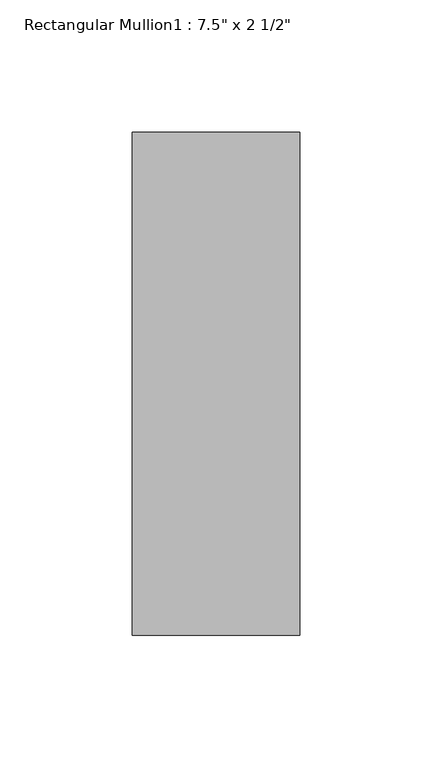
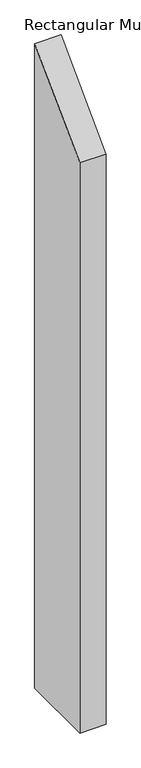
"""IFC4 building model written with IfcOpenShell, lengths in millimetres: member geometry."""

from ifc_helpers import new_model, si_unit, frame, origin, place, context, project, spatial, polyline, outline, extrude, source, transform, mapped, element, save


def member_9b15019b(model_context):
    return source(origin(), model_context, "Body", "SweptSolid", [
        extrude(outline(polyline([(-165.1, -165.1), (25.4, 25.4), (25.4, -1626.4033425), (-165.1, -1626.4033425), (-165.1, -165.1)])), frame((-63.5, 0.0, 0.0), z_axis=(1.0, 0.0, 0.0), x_axis=(0.0, 1.0, 0.0)), (0.0, 0.0, 1.0), 63.5),
    ])


if __name__ == "__main__":
    model = new_model("IFC4")
    model_context = context("Model", 3, world=origin())
    ifc_project = project(units=[si_unit("LENGTHUNIT", "METRE", prefix="MILLI")], contexts=[model_context])
    site = spatial("IfcSite", under=ifc_project)
    building = spatial("IfcBuilding", under=site)
    placement = place(None, origin())
    member_shape = member_9b15019b(model_context)
    element("IfcMember", 1, ObjectType="Rectangular Mullion1 : 7.5\" x 2 1/2\"", at=placement, inside=building, context=model_context, shape_type="MappedRepresentation", body=[
        mapped(member_shape, transform((0.0, 0.0, 0.0), x_axis=(1.0, 0.0, 0.0), y_axis=(0.0, 1.0, 0.0), z_axis=(0.0, 0.0, 1.0))),
    ])
    save(model, "model.ifc")
